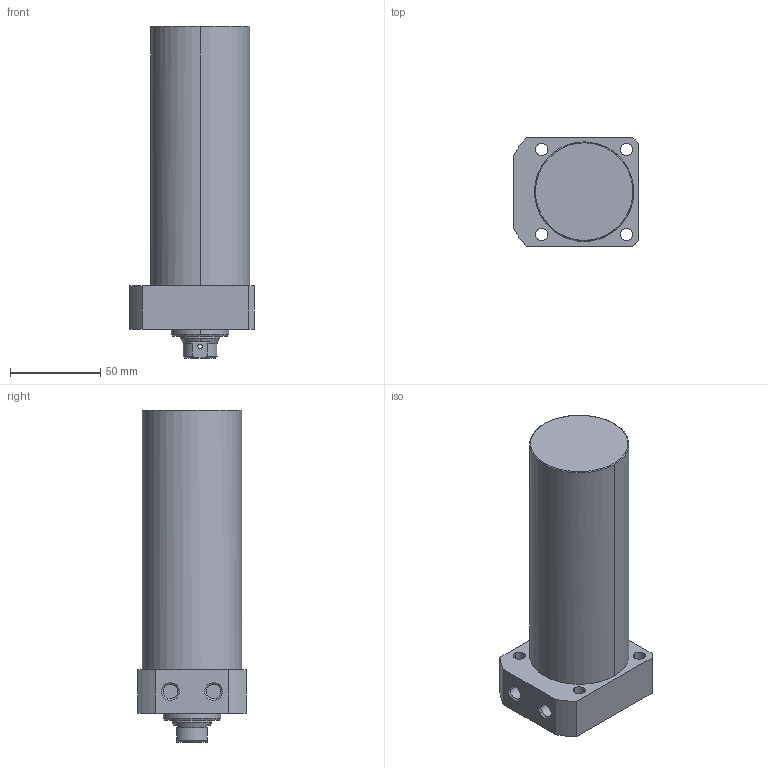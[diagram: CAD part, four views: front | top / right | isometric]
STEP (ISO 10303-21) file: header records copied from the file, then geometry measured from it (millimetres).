
FILE_DESCRIPTION((' '),'2;1');
FILE_NAME( 'TLLR-055CB-115.STEP.stp', '2025-10-24T16:34:45', (' '), ('--- Datakit www.datakit.com---'), ' Datakit CrossCadWare V2024.1 Dec 21 2023', 'Mastercam 2025', ' ');
FILE_SCHEMA(('AUTOMOTIVE_DESIGN { 1 0 10303 214 1 1 1 1 }'));
Length unit declared in the file: millimetre
Products named in the file (1): TLLR-055CB-115
Bounding box: 69 x 60 x 184 mm (x, y, z)
Volume: 439704.7 mm3; surface area: 43216.9 mm2
Topology: 1 solids, 1 shells, 67 faces, 197 edges, 136 vertices
Faces by surface type: cylinder 32, plane 19, cone 14, torus 2
Entity records: 3058 total; most frequent: CARTESIAN_POINT 1139, DIRECTION 426, ORIENTED_EDGE 390, EDGE_CURVE 195, AXIS2_PLACEMENT_3D 179, VERTEX_POINT 136, CIRCLE 111, EDGE_LOOP 85
